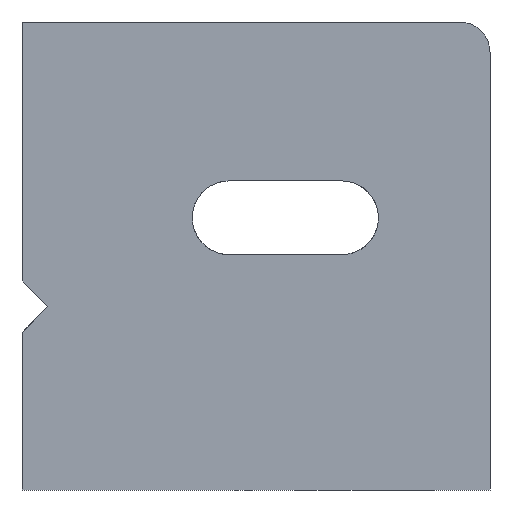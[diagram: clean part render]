
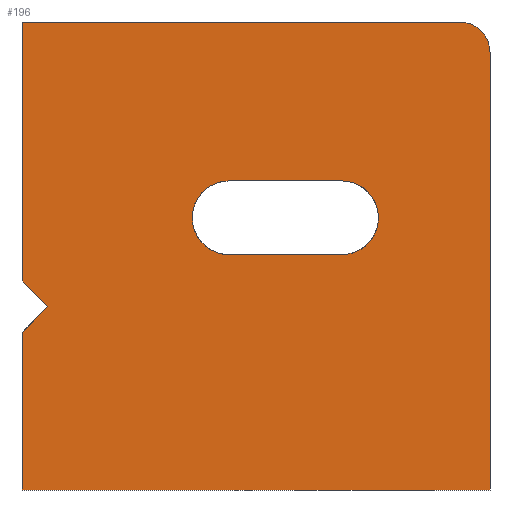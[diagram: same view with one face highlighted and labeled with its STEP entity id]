
A CAD part, front view. The second image highlights one B-rep face of the part: STEP entity #196.
In plain terms, the highlighted planar face has unit normal (0, -1, 0).
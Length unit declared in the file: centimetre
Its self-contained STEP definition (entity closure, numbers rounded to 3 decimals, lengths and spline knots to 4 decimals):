
#22 = CARTESIAN_POINT ( 'NONE',  ( 0., 0., 1000. ) ) ;
#160 = ORIENTED_EDGE ( 'NONE', *, *, #551, .F. ) ;
#171 = CARTESIAN_POINT ( 'NONE',  ( 682.7071, 0., 581.6634 ) ) ;
#188 = CARTESIAN_POINT ( 'NONE',  ( 0., 0., 446.5979 ) ) ;
#196 = ADVANCED_FACE ( 'NONE', ( #1414, #1402 ), #2150, .F. ) ;
#248 = DIRECTION ( 'NONE',  ( 1., 0., 0. ) ) ;
#250 = VERTEX_POINT ( 'NONE', #708 ) ;
#267 = EDGE_CURVE ( 'NONE', #1567, #895, #857, .T. ) ;
#282 = CARTESIAN_POINT ( 'NONE',  ( 1000., 0., 935.259 ) ) ;
#293 = CARTESIAN_POINT ( 'NONE',  ( 54.8089, 0., 391.789 ) ) ;
#303 = VERTEX_POINT ( 'NONE', #293 ) ;
#333 = LINE ( 'NONE', #1623, #681 ) ;
#379 = VECTOR ( 'NONE', #1592, 100. ) ;
#395 = CARTESIAN_POINT ( 'NONE',  ( 682.7071, 0., 660.6198 ) ) ;
#398 = DIRECTION ( 'NONE',  ( 0., 0., 1. ) ) ;
#404 = DIRECTION ( 'NONE',  ( 0., -1., 0. ) ) ;
#424 = VECTOR ( 'NONE', #1774, 100. ) ;
#448 = EDGE_CURVE ( 'NONE', #1567, #2172, #2234, .T. ) ;
#493 = EDGE_LOOP ( 'NONE', ( #1546, #1906, #1051, #1070 ) ) ;
#503 = DIRECTION ( 'NONE',  ( 0., 0., 1. ) ) ;
#525 = DIRECTION ( 'NONE',  ( 0., 1., 0. ) ) ;
#527 = LINE ( 'NONE', #1812, #1415 ) ;
#551 = EDGE_CURVE ( 'NONE', #303, #1441, #1494, .T. ) ;
#563 = EDGE_CURVE ( 'NONE', #2244, #1238, #584, .T. ) ;
#584 = CIRCLE ( 'NONE', #1272, 78.9564 ) ;
#585 = ORIENTED_EDGE ( 'NONE', *, *, #2100, .F. ) ;
#606 = CARTESIAN_POINT ( 'NONE',  ( 442.6468, 0., 502.707 ) ) ;
#627 = LINE ( 'NONE', #1547, #379 ) ;
#681 = VECTOR ( 'NONE', #2179, 100. ) ;
#684 = VECTOR ( 'NONE', #1471, 100. ) ;
#708 = CARTESIAN_POINT ( 'NONE',  ( 0., 0., 0. ) ) ;
#713 = DIRECTION ( 'NONE',  ( 0., 0., -1. ) ) ;
#725 = DIRECTION ( 'NONE',  ( 0., -1., 0. ) ) ;
#740 = LINE ( 'NONE', #2388, #684 ) ;
#741 = VECTOR ( 'NONE', #1292, 100. ) ;
#822 = CARTESIAN_POINT ( 'NONE',  ( 442.6468, 0., 502.707 ) ) ;
#833 = CARTESIAN_POINT ( 'NONE',  ( 682.7071, 0., 502.707 ) ) ;
#857 = LINE ( 'NONE', #1232, #424 ) ;
#895 = VERTEX_POINT ( 'NONE', #933 ) ;
#898 = CARTESIAN_POINT ( 'NONE',  ( 54.8089, 0., 391.789 ) ) ;
#933 = CARTESIAN_POINT ( 'NONE',  ( 1000., 0., 0. ) ) ;
#947 = CARTESIAN_POINT ( 'NONE',  ( 935.259, 0., 935.259 ) ) ;
#1051 = ORIENTED_EDGE ( 'NONE', *, *, #1121, .F. ) ;
#1070 = ORIENTED_EDGE ( 'NONE', *, *, #563, .F. ) ;
#1096 = CARTESIAN_POINT ( 'NONE',  ( 0., 0., 336.9801 ) ) ;
#1103 = CARTESIAN_POINT ( 'NONE',  ( 0., 0., 1000. ) ) ;
#1121 = EDGE_CURVE ( 'NONE', #1238, #1172, #333, .T. ) ;
#1172 = VERTEX_POINT ( 'NONE', #2348 ) ;
#1178 = EDGE_LOOP ( 'NONE', ( #1493, #160, #1574, #1377, #2336, #1713, #1395, #585 ) ) ;
#1194 = EDGE_CURVE ( 'NONE', #1172, #2387, #2153, .T. ) ;
#1221 = VECTOR ( 'NONE', #248, 100. ) ;
#1223 = EDGE_CURVE ( 'NONE', #1911, #303, #740, .T. ) ;
#1232 = CARTESIAN_POINT ( 'NONE',  ( 1000., 0., 1000. ) ) ;
#1238 = VERTEX_POINT ( 'NONE', #395 ) ;
#1249 = CARTESIAN_POINT ( 'NONE',  ( 442.6468, 0., 581.6634 ) ) ;
#1258 = DIRECTION ( 'NONE',  ( 0., 0., -1. ) ) ;
#1266 = VECTOR ( 'NONE', #1582, 100. ) ;
#1272 = AXIS2_PLACEMENT_3D ( 'NONE', #171, #2229, #2378 ) ;
#1275 = EDGE_CURVE ( 'NONE', #2387, #2244, #1516, .T. ) ;
#1292 = DIRECTION ( 'NONE',  ( -0.707, 0., 0.707 ) ) ;
#1377 = ORIENTED_EDGE ( 'NONE', *, *, #1483, .T. ) ;
#1395 = ORIENTED_EDGE ( 'NONE', *, *, #448, .T. ) ;
#1402 = FACE_OUTER_BOUND ( 'NONE', #1178, .T. ) ;
#1405 = VERTEX_POINT ( 'NONE', #1103 ) ;
#1414 = FACE_BOUND ( 'NONE', #493, .T. ) ;
#1415 = VECTOR ( 'NONE', #1258, 100. ) ;
#1441 = VERTEX_POINT ( 'NONE', #188 ) ;
#1452 = CARTESIAN_POINT ( 'NONE',  ( 935.259, 0., 1000. ) ) ;
#1471 = DIRECTION ( 'NONE',  ( 0.707, 0., 0.707 ) ) ;
#1483 = EDGE_CURVE ( 'NONE', #1911, #250, #527, .T. ) ;
#1493 = ORIENTED_EDGE ( 'NONE', *, *, #1905, .T. ) ;
#1494 = LINE ( 'NONE', #898, #741 ) ;
#1516 = LINE ( 'NONE', #606, #1221 ) ;
#1546 = ORIENTED_EDGE ( 'NONE', *, *, #1275, .F. ) ;
#1547 = CARTESIAN_POINT ( 'NONE',  ( 0., 0., 0. ) ) ;
#1549 = EDGE_CURVE ( 'NONE', #250, #895, #627, .T. ) ;
#1567 = VERTEX_POINT ( 'NONE', #282 ) ;
#1574 = ORIENTED_EDGE ( 'NONE', *, *, #1223, .F. ) ;
#1582 = DIRECTION ( 'NONE',  ( 1., 0., 0. ) ) ;
#1592 = DIRECTION ( 'NONE',  ( 1., 0., 0. ) ) ;
#1623 = CARTESIAN_POINT ( 'NONE',  ( 682.7071, 0., 660.6198 ) ) ;
#1676 = AXIS2_PLACEMENT_3D ( 'NONE', #1249, #725, #713 ) ;
#1713 = ORIENTED_EDGE ( 'NONE', *, *, #267, .F. ) ;
#1722 = AXIS2_PLACEMENT_3D ( 'NONE', #1848, #525, #503 ) ;
#1774 = DIRECTION ( 'NONE',  ( 0., 0., -1. ) ) ;
#1810 = CARTESIAN_POINT ( 'NONE',  ( 0., 0., 1000. ) ) ;
#1812 = CARTESIAN_POINT ( 'NONE',  ( 0., 0., 1000. ) ) ;
#1848 = CARTESIAN_POINT ( 'NONE',  ( 0., 0., 1000. ) ) ;
#1905 = EDGE_CURVE ( 'NONE', #1405, #1441, #2195, .T. ) ;
#1906 = ORIENTED_EDGE ( 'NONE', *, *, #1194, .F. ) ;
#1911 = VERTEX_POINT ( 'NONE', #1096 ) ;
#2009 = AXIS2_PLACEMENT_3D ( 'NONE', #947, #404, #398 ) ;
#2019 = DIRECTION ( 'NONE',  ( 0., 0., -1. ) ) ;
#2100 = EDGE_CURVE ( 'NONE', #1405, #2172, #2163, .T. ) ;
#2150 = PLANE ( 'NONE',  #1722 ) ;
#2153 = CIRCLE ( 'NONE', #1676, 78.9564 ) ;
#2163 = LINE ( 'NONE', #1810, #1266 ) ;
#2172 = VERTEX_POINT ( 'NONE', #1452 ) ;
#2179 = DIRECTION ( 'NONE',  ( -1., 0., 0. ) ) ;
#2188 = VECTOR ( 'NONE', #2019, 100. ) ;
#2195 = LINE ( 'NONE', #22, #2188 ) ;
#2229 = DIRECTION ( 'NONE',  ( 0., -1., 0. ) ) ;
#2234 = CIRCLE ( 'NONE', #2009, 64.741 ) ;
#2244 = VERTEX_POINT ( 'NONE', #833 ) ;
#2336 = ORIENTED_EDGE ( 'NONE', *, *, #1549, .T. ) ;
#2348 = CARTESIAN_POINT ( 'NONE',  ( 442.6468, 0., 660.6198 ) ) ;
#2378 = DIRECTION ( 'NONE',  ( 0., 0., -1. ) ) ;
#2387 = VERTEX_POINT ( 'NONE', #822 ) ;
#2388 = CARTESIAN_POINT ( 'NONE',  ( 0., 0., 336.9801 ) ) ;
